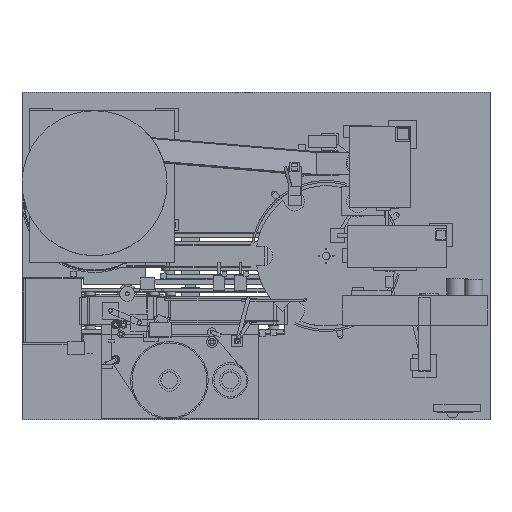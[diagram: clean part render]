
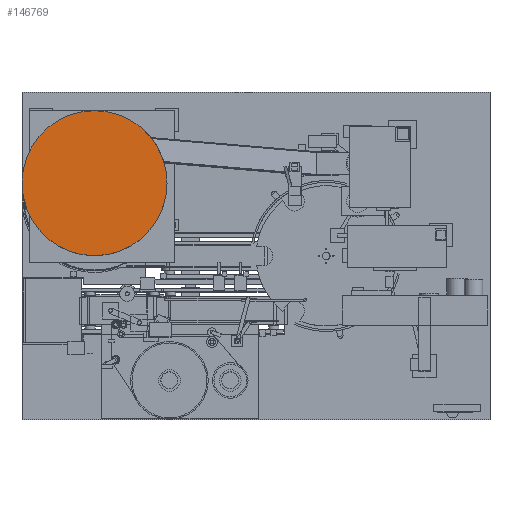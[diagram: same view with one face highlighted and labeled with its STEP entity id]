
A CAD part, top view. The second image highlights one B-rep face of the part: STEP entity #146769.
In plain terms, the highlighted planar face has unit normal (0, 0, 1).
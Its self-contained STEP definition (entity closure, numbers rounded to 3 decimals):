
#146685 = EDGE_CURVE('',#146686,#146686,#146688,.T.);
#146686 = VERTEX_POINT('',#146687);
#146687 = CARTESIAN_POINT('',(-340.,155.,327.));
#146688 = SURFACE_CURVE('',#146689,(#146694,#146706),.PCURVE_S1.);
#146689 = CIRCLE('',#146690,155.);
#146690 = AXIS2_PLACEMENT_3D('',#146691,#146692,#146693);
#146691 = CARTESIAN_POINT('',(-495.,155.,327.));
#146692 = DIRECTION('',(0.,0.,1.));
#146693 = DIRECTION('',(1.,0.,-0.));
#146694 = PCURVE('',#146695,#146700);
#146695 = CYLINDRICAL_SURFACE('',#146696,155.);
#146696 = AXIS2_PLACEMENT_3D('',#146697,#146698,#146699);
#146697 = CARTESIAN_POINT('',(-495.,155.,324.));
#146698 = DIRECTION('',(0.,0.,1.));
#146699 = DIRECTION('',(1.,0.,-0.));
#146700 = DEFINITIONAL_REPRESENTATION('',(#146701),#146705);
#146701 = LINE('',#146702,#146703);
#146702 = CARTESIAN_POINT('',(0.,3.));
#146703 = VECTOR('',#146704,1.);
#146704 = DIRECTION('',(1.,0.));
#146705 = ( GEOMETRIC_REPRESENTATION_CONTEXT(2) 
PARAMETRIC_REPRESENTATION_CONTEXT() REPRESENTATION_CONTEXT('2D SPACE',''
  ) );
#146706 = PCURVE('',#146707,#146712);
#146707 = PLANE('',#146708);
#146708 = AXIS2_PLACEMENT_3D('',#146709,#146710,#146711);
#146709 = CARTESIAN_POINT('',(-495.,155.,327.));
#146710 = DIRECTION('',(0.,0.,1.));
#146711 = DIRECTION('',(1.,0.,-0.));
#146712 = DEFINITIONAL_REPRESENTATION('',(#146713),#146717);
#146713 = CIRCLE('',#146714,155.);
#146714 = AXIS2_PLACEMENT_2D('',#146715,#146716);
#146715 = CARTESIAN_POINT('',(0.,0.));
#146716 = DIRECTION('',(1.,0.));
#146717 = ( GEOMETRIC_REPRESENTATION_CONTEXT(2) 
PARAMETRIC_REPRESENTATION_CONTEXT() REPRESENTATION_CONTEXT('2D SPACE',''
  ) );
#146769 = ADVANCED_FACE('',(#146770),#146707,.T.);
#146770 = FACE_BOUND('',#146771,.T.);
#146771 = EDGE_LOOP('',(#146772));
#146772 = ORIENTED_EDGE('',*,*,#146685,.T.);
